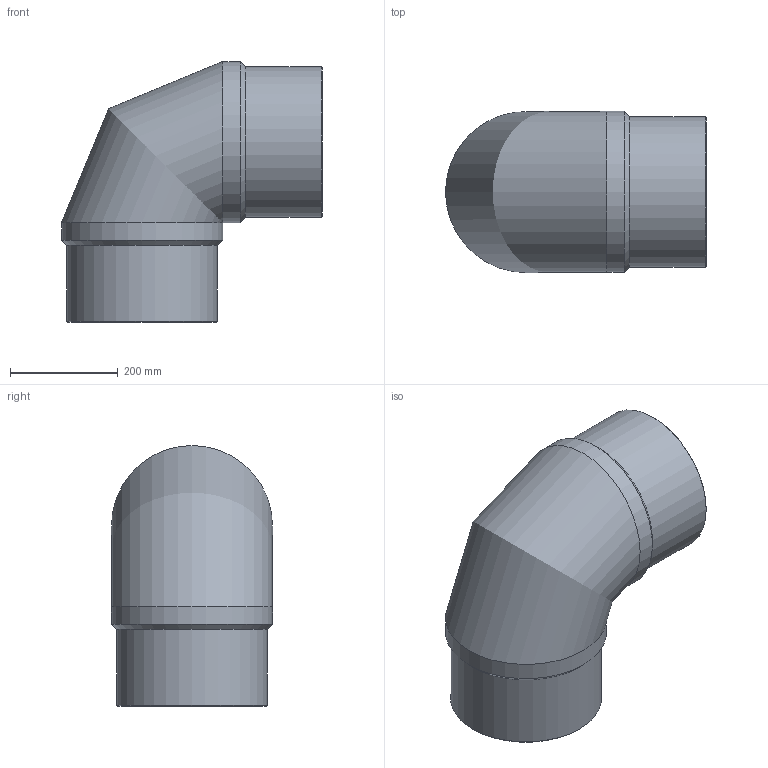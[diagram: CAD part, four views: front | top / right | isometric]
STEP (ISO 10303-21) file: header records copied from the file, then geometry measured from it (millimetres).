
FILE_DESCRIPTION(/* description */ ('Unknown'),/* implementation_level */ '2;1');
FILE_NAME(/* name */ 'G9P280B',/* time_stamp */ '2021-11-29T10:36:00+01:00',/* author */ ('Unknown'),/* organization */ ('Unknown'),/* preprocessor_version */ 'ST-DEVELOPER v16.7',/* originating_system */ 'Solid Edge',/* authorisation */ 'Unknown');
FILE_SCHEMA (('AUTOMOTIVE_DESIGN {1 0 10303 214 3 1 1}'));
Length unit declared in the file: millimetre
Products named in the file (1): G9P280B
Bounding box: 484.5 x 299 x 484.5 mm (x, y, z)
Volume: 11179711.5 mm3; surface area: 1055563.7 mm2
Topology: 1 solids, 1 shells, 14 faces, 34 edges, 22 vertices
Faces by surface type: cylinder 6, cone 4, plane 2, torus 2
Full cylindrical faces by diameter (mm): 246.8 x2, 280 x2, 299 x2
Entity records: 380 total; most frequent: CARTESIAN_POINT 80, DIRECTION 60, ORIENTED_EDGE 38, AXIS2_PLACEMENT_3D 30, EDGE_LOOP 27, FACE_BOUND 27, EDGE_CURVE 19, VERTEX_POINT 18
